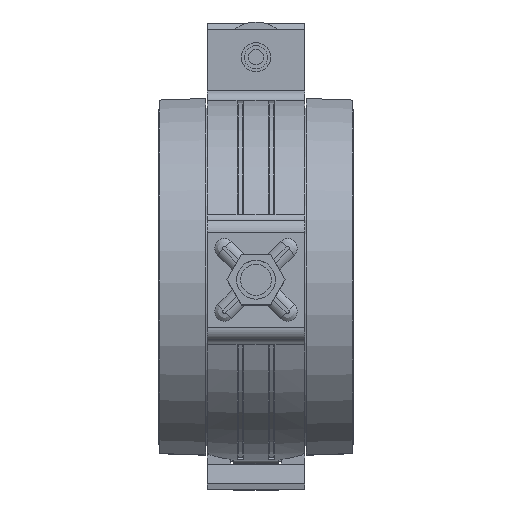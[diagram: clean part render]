
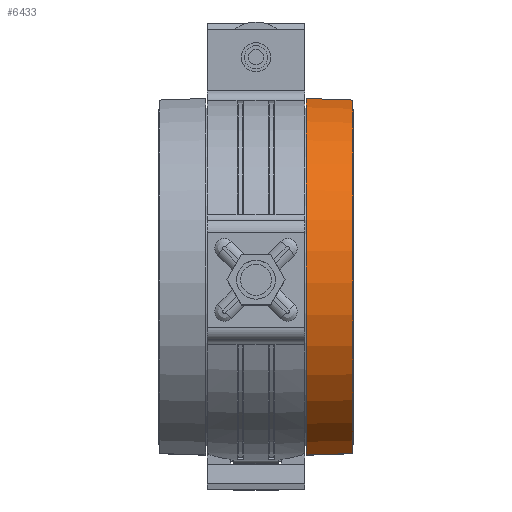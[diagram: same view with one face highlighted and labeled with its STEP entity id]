
A CAD part, top view. The second image highlights one B-rep face of the part: STEP entity #6433.
In plain terms, the highlighted conical face has half-angle 2 degrees and reference radius 47.443 mm.
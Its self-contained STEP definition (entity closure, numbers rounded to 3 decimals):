
#107=CONICAL_SURFACE('',#6851,47.443,2.);
#377=CIRCLE('',#6850,47.236);
#378=CIRCLE('',#6852,47.65);
#789=FACE_OUTER_BOUND('',#1141,.T.);
#1141=EDGE_LOOP('',(#4259,#4260,#4261,#4262));
#1516=LINE('',#9861,#2019);
#1517=LINE('',#9864,#2020);
#2019=VECTOR('',#7839,11.863);
#2020=VECTOR('',#7842,11.863);
#2552=VERTEX_POINT('',#9854);
#2553=VERTEX_POINT('',#9856);
#2554=VERTEX_POINT('',#9860);
#2555=VERTEX_POINT('',#9862);
#3213=EDGE_CURVE('',#2552,#2553,#377,.T.);
#3215=EDGE_CURVE('',#2554,#2552,#1516,.T.);
#3216=EDGE_CURVE('',#2554,#2555,#378,.T.);
#3217=EDGE_CURVE('',#2555,#2553,#1517,.T.);
#4259=ORIENTED_EDGE('',*,*,#3215,.F.);
#4260=ORIENTED_EDGE('',*,*,#3216,.T.);
#4261=ORIENTED_EDGE('',*,*,#3217,.T.);
#4262=ORIENTED_EDGE('',*,*,#3213,.F.);
#6433=ADVANCED_FACE('',(#789),#107,.T.);
#6850=AXIS2_PLACEMENT_3D('',#9857,#7834,#7835);
#6851=AXIS2_PLACEMENT_3D('',#9859,#7837,#7838);
#6852=AXIS2_PLACEMENT_3D('',#9863,#7840,#7841);
#7834=DIRECTION('center_axis',(1.,0.,0.));
#7835=DIRECTION('ref_axis',(0.,0.982,0.191));
#7837=DIRECTION('center_axis',(-1.,0.,0.));
#7838=DIRECTION('ref_axis',(0.,0.982,0.191));
#7839=DIRECTION('',(0.999,-0.034,-0.007));
#7840=DIRECTION('center_axis',(1.,0.,0.));
#7841=DIRECTION('ref_axis',(0.,0.982,0.191));
#7842=DIRECTION('',(0.999,0.033,-0.011));
#9854=CARTESIAN_POINT('',(24.856,46.368,9.013));
#9856=CARTESIAN_POINT('',(24.856,-44.662,15.379));
#9857=CARTESIAN_POINT('Origin',(24.856,0.,
0.));
#9859=CARTESIAN_POINT('Origin',(18.928,0.,0.));
#9860=CARTESIAN_POINT('',(13.,46.775,9.092));
#9861=CARTESIAN_POINT('',(13.,46.775,9.092));
#9862=CARTESIAN_POINT('',(13.,-45.054,15.513));
#9863=CARTESIAN_POINT('Origin',(13.,0.,
0.));
#9864=CARTESIAN_POINT('',(13.,-45.054,15.513));
